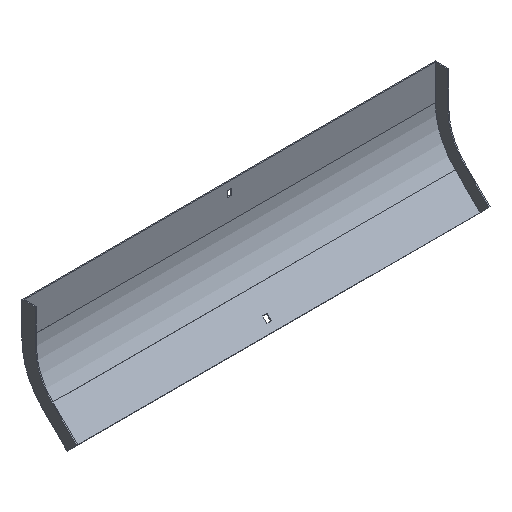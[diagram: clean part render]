
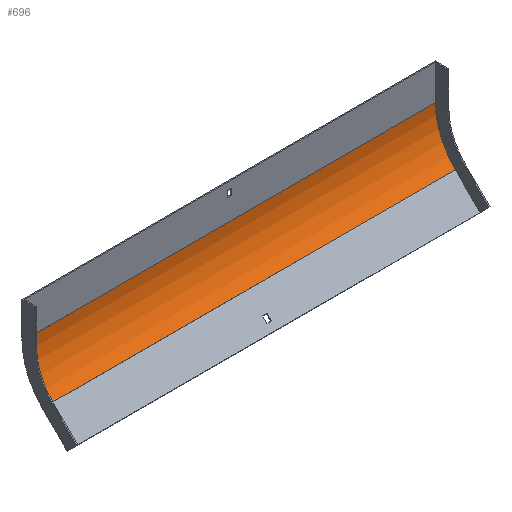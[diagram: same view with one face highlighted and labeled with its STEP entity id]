
A CAD part, isometric view. The second image highlights one B-rep face of the part: STEP entity #696.
In plain terms, the highlighted cylindrical face has radius 100 mm (diameter 200 mm), a partial arc.
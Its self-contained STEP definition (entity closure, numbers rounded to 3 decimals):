
#12 = DIRECTION ( 'NONE',  ( 0., 0., 1. ) ) ;
#65 = VERTEX_POINT ( 'NONE', #77 ) ;
#77 = CARTESIAN_POINT ( 'NONE',  ( 302., -30.789, -122.251 ) ) ;
#92 = VECTOR ( 'NONE', #487, 1000. ) ;
#98 = CIRCLE ( 'NONE', #269, 100. ) ;
#129 = CARTESIAN_POINT ( 'NONE',  ( 303.5, -1.5, -51.54 ) ) ;
#131 = CARTESIAN_POINT ( 'NONE',  ( -302., -1.5, -51.54 ) ) ;
#229 = EDGE_CURVE ( 'NONE', #690, #721, #519, .T. ) ;
#240 = CARTESIAN_POINT ( 'NONE',  ( 302., -1.5, -51.54 ) ) ;
#242 = ORIENTED_EDGE ( 'NONE', *, *, #229, .T. ) ;
#250 = DIRECTION ( 'NONE',  ( -1., 0., 0. ) ) ;
#255 = CARTESIAN_POINT ( 'NONE',  ( -302., -30.789, -122.251 ) ) ;
#269 = AXIS2_PLACEMENT_3D ( 'NONE', #842, #781, #639 ) ;
#340 = CARTESIAN_POINT ( 'NONE',  ( -302., -101.5, -51.54 ) ) ;
#342 = CARTESIAN_POINT ( 'NONE',  ( 303.5, -30.789, -122.251 ) ) ;
#352 = AXIS2_PLACEMENT_3D ( 'NONE', #340, #549, #12 ) ;
#355 = AXIS2_PLACEMENT_3D ( 'NONE', #377, #250, #516 ) ;
#377 = CARTESIAN_POINT ( 'NONE',  ( 303.5, -101.5, -51.54 ) ) ;
#411 = EDGE_CURVE ( 'NONE', #562, #721, #765, .T. ) ;
#416 = LINE ( 'NONE', #342, #92 ) ;
#444 = EDGE_CURVE ( 'NONE', #65, #562, #416, .T. ) ;
#447 = ORIENTED_EDGE ( 'NONE', *, *, #618, .T. ) ;
#453 = FACE_OUTER_BOUND ( 'NONE', #462, .T. ) ;
#462 = EDGE_LOOP ( 'NONE', ( #488, #713, #447, #242 ) ) ;
#487 = DIRECTION ( 'NONE',  ( -1., 0., 0. ) ) ;
#488 = ORIENTED_EDGE ( 'NONE', *, *, #411, .F. ) ;
#504 = DIRECTION ( 'NONE',  ( -1., 0., 0. ) ) ;
#516 = DIRECTION ( 'NONE',  ( 0., 0., 1. ) ) ;
#519 = LINE ( 'NONE', #129, #850 ) ;
#549 = DIRECTION ( 'NONE',  ( 1., 0., 0. ) ) ;
#562 = VERTEX_POINT ( 'NONE', #255 ) ;
#618 = EDGE_CURVE ( 'NONE', #65, #690, #98, .T. ) ;
#639 = DIRECTION ( 'NONE',  ( 0., 0., 1. ) ) ;
#690 = VERTEX_POINT ( 'NONE', #240 ) ;
#696 = ADVANCED_FACE ( 'NONE', ( #453 ), #706, .F. ) ;
#706 = CYLINDRICAL_SURFACE ( 'NONE', #355, 100. ) ;
#713 = ORIENTED_EDGE ( 'NONE', *, *, #444, .F. ) ;
#721 = VERTEX_POINT ( 'NONE', #131 ) ;
#765 = CIRCLE ( 'NONE', #352, 100. ) ;
#781 = DIRECTION ( 'NONE',  ( 1., 0., 0. ) ) ;
#842 = CARTESIAN_POINT ( 'NONE',  ( 302., -101.5, -51.54 ) ) ;
#850 = VECTOR ( 'NONE', #504, 1000. ) ;
